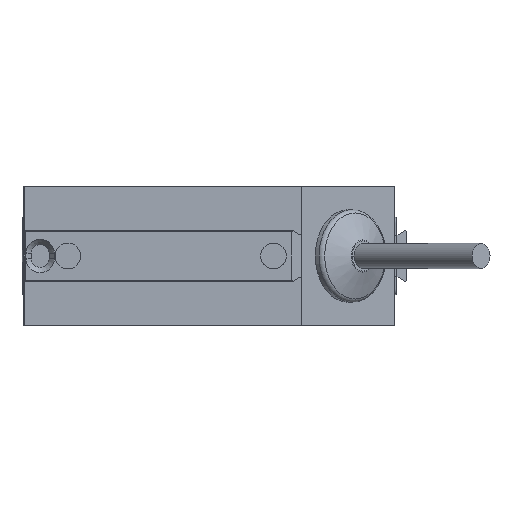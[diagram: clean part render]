
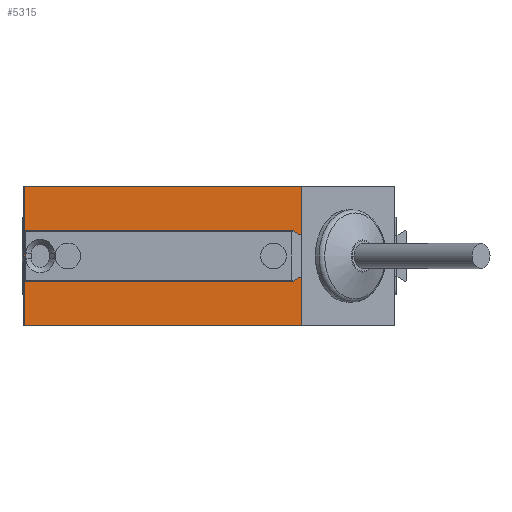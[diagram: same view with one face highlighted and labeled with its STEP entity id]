
A CAD part, left-side view. The second image highlights one B-rep face of the part: STEP entity #5315.
In plain terms, the highlighted planar face has unit normal (-1, 0, 0).
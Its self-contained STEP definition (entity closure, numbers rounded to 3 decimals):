
#779=ORIENTED_EDGE('',*,*,#1640,.F.);
#780=ORIENTED_EDGE('',*,*,#1746,.T.);
#781=ORIENTED_EDGE('',*,*,#1652,.T.);
#782=ORIENTED_EDGE('',*,*,#1747,.F.);
#783=ORIENTED_EDGE('',*,*,#1632,.T.);
#784=ORIENTED_EDGE('',*,*,#1679,.F.);
#785=ORIENTED_EDGE('',*,*,#1595,.F.);
#786=ORIENTED_EDGE('',*,*,#1705,.T.);
#1595=EDGE_CURVE('',#2140,#2141,#2466,.T.);
#1632=EDGE_CURVE('',#2174,#2172,#2492,.T.);
#1640=EDGE_CURVE('',#2177,#2179,#2499,.T.);
#1652=EDGE_CURVE('',#2184,#2188,#2504,.T.);
#1679=EDGE_CURVE('',#2141,#2172,#2526,.T.);
#1705=EDGE_CURVE('',#2140,#2174,#2548,.T.);
#1746=EDGE_CURVE('',#2177,#2184,#2578,.T.);
#1747=EDGE_CURVE('',#2179,#2188,#2579,.T.);
#2140=VERTEX_POINT('',#7398);
#2141=VERTEX_POINT('',#7400);
#2172=VERTEX_POINT('',#7468);
#2174=VERTEX_POINT('',#7471);
#2177=VERTEX_POINT('',#7482);
#2179=VERTEX_POINT('',#7485);
#2184=VERTEX_POINT('',#7497);
#2188=VERTEX_POINT('',#7506);
#2466=LINE('',#7399,#2835);
#2492=LINE('',#7470,#2861);
#2499=LINE('',#7484,#2868);
#2504=LINE('',#7507,#2873);
#2526=LINE('',#7561,#2895);
#2548=LINE('',#7603,#2917);
#2578=LINE('',#7680,#2947);
#2579=LINE('',#7681,#2948);
#2835=VECTOR('',#6166,1000.);
#2861=VECTOR('',#6216,1000.);
#2868=VECTOR('',#6227,1000.);
#2873=VECTOR('',#6248,1000.);
#2895=VECTOR('',#6292,1000.);
#2917=VECTOR('',#6326,1000.);
#2947=VECTOR('',#6438,1000.);
#2948=VECTOR('',#6439,1000.);
#3183=EDGE_LOOP('',(#779,#780,#781,#782));
#3184=EDGE_LOOP('',(#783,#784,#785,#786));
#3450=FACE_BOUND('',#3183,.T.);
#3451=FACE_BOUND('',#3184,.T.);
#3680=PLANE('',#5650);
#5315=ADVANCED_FACE('',(#3450,#3451),#3680,.F.);
#5650=AXIS2_PLACEMENT_3D('',#7679,#6436,#6437);
#6166=DIRECTION('',(0.,-1.,0.));
#6216=DIRECTION('',(0.,-1.,0.));
#6227=DIRECTION('',(0.,0.,-1.));
#6248=DIRECTION('',(0.,0.,-1.));
#6292=DIRECTION('',(0.,0.,-1.));
#6326=DIRECTION('',(0.,0.,-1.));
#6436=DIRECTION('',(1.,0.,0.));
#6437=DIRECTION('',(0.,1.,0.));
#6438=DIRECTION('',(0.,-1.,0.));
#6439=DIRECTION('',(0.,-1.,0.));
#7398=CARTESIAN_POINT('',(-9.001,63.001,13.5));
#7399=CARTESIAN_POINT('',(-9.001,9.101,13.5));
#7400=CARTESIAN_POINT('',(-9.001,9.001,13.5));
#7468=CARTESIAN_POINT('',(-9.001,9.001,-13.5));
#7470=CARTESIAN_POINT('',(-9.001,63.001,-13.5));
#7471=CARTESIAN_POINT('',(-9.001,63.001,-13.5));
#7482=CARTESIAN_POINT('',(-9.001,62.801,4.235));
#7484=CARTESIAN_POINT('',(-9.001,62.801,13.5));
#7485=CARTESIAN_POINT('',(-9.001,62.801,-4.235));
#7497=CARTESIAN_POINT('',(-9.001,9.101,4.235));
#7506=CARTESIAN_POINT('',(-9.001,9.101,-4.235));
#7507=CARTESIAN_POINT('',(-9.001,9.101,13.5));
#7561=CARTESIAN_POINT('',(-9.001,9.001,13.5));
#7603=CARTESIAN_POINT('',(-9.001,63.001,13.5));
#7679=CARTESIAN_POINT('',(-9.001,63.001,13.5));
#7680=CARTESIAN_POINT('',(-9.001,80.,4.235));
#7681=CARTESIAN_POINT('',(-9.001,80.,-4.235));
